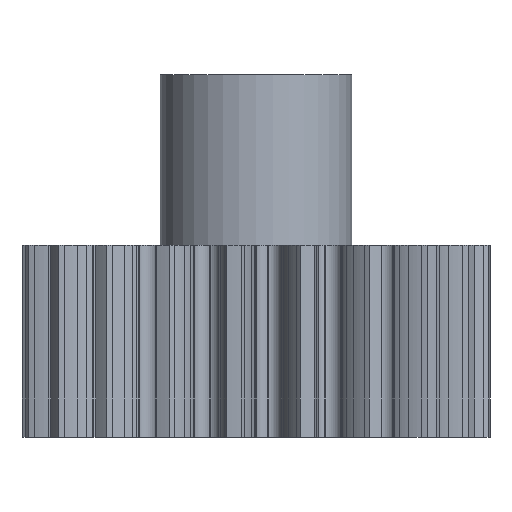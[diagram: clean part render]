
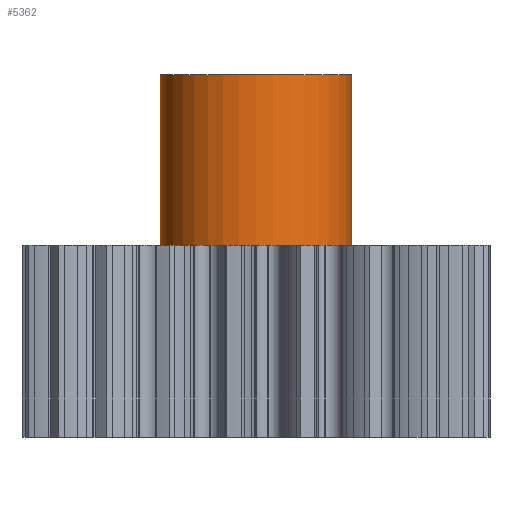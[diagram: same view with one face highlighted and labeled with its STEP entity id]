
A CAD part, front view. The second image highlights one B-rep face of the part: STEP entity #5362.
In plain terms, the highlighted cylindrical face has radius 4.5 mm (diameter 9 mm), a partial arc.
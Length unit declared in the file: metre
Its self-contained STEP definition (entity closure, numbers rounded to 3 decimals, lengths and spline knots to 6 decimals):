
#10 = VECTOR ( 'NONE', #3473, 1. ) ;
#341 = VERTEX_POINT ( 'NONE', #9301 ) ;
#701 = FACE_OUTER_BOUND ( 'NONE', #6685, .T. ) ;
#1105 = DIRECTION ( 'NONE',  ( 0., 0., 1. ) ) ;
#1383 = CYLINDRICAL_SURFACE ( 'NONE', #6929, 0.0045 ) ;
#1539 = LINE ( 'NONE', #5213, #4483 ) ;
#2843 = AXIS2_PLACEMENT_3D ( 'NONE', #8195, #7285, #8373 ) ;
#2958 = EDGE_CURVE ( 'NONE', #11770, #341, #1539, .T. ) ;
#3155 = DIRECTION ( 'NONE',  ( 1., 0., 0. ) ) ;
#3200 = EDGE_CURVE ( 'NONE', #10210, #341, #10222, .T. ) ;
#3444 = CARTESIAN_POINT ( 'NONE',  ( 0.0045, 0., 0.0075 ) ) ;
#3473 = DIRECTION ( 'NONE',  ( 0., 0., -1. ) ) ;
#4483 = VECTOR ( 'NONE', #1105, 1. ) ;
#4674 = ORIENTED_EDGE ( 'NONE', *, *, #7253, .T. ) ;
#4946 = CARTESIAN_POINT ( 'NONE',  ( 0., 0., 0.0085 ) ) ;
#5060 = DIRECTION ( 'NONE',  ( 0., 0., 1. ) ) ;
#5071 = AXIS2_PLACEMENT_3D ( 'NONE', #5862, #10336, #3155 ) ;
#5213 = CARTESIAN_POINT ( 'NONE',  ( 0.0045, 0., 0.0085 ) ) ;
#5279 = DIRECTION ( 'NONE',  ( 1., 0., 0. ) ) ;
#5362 = ADVANCED_FACE ( 'NONE', ( #701 ), #1383, .T. ) ;
#5398 = LINE ( 'NONE', #11677, #10 ) ;
#5862 = CARTESIAN_POINT ( 'NONE',  ( 0., 0., 0.017 ) ) ;
#6002 = VERTEX_POINT ( 'NONE', #10989 ) ;
#6685 = EDGE_LOOP ( 'NONE', ( #11773, #7476, #4674, #9991 ) ) ;
#6929 = AXIS2_PLACEMENT_3D ( 'NONE', #4946, #5060, #5279 ) ;
#7253 = EDGE_CURVE ( 'NONE', #10210, #6002, #5398, .T. ) ;
#7285 = DIRECTION ( 'NONE',  ( 0., 0., -1. ) ) ;
#7333 = CARTESIAN_POINT ( 'NONE',  ( -0.0045, 0., 0.017 ) ) ;
#7476 = ORIENTED_EDGE ( 'NONE', *, *, #3200, .F. ) ;
#8195 = CARTESIAN_POINT ( 'NONE',  ( 0., 0., 0.0075 ) ) ;
#8373 = DIRECTION ( 'NONE',  ( 1., 0., 0. ) ) ;
#8573 = EDGE_CURVE ( 'NONE', #11770, #6002, #11843, .T. ) ;
#9301 = CARTESIAN_POINT ( 'NONE',  ( 0.0045, 0., 0.017 ) ) ;
#9991 = ORIENTED_EDGE ( 'NONE', *, *, #8573, .F. ) ;
#10210 = VERTEX_POINT ( 'NONE', #7333 ) ;
#10222 = CIRCLE ( 'NONE', #5071, 0.0045 ) ;
#10336 = DIRECTION ( 'NONE',  ( 0., 0., 1. ) ) ;
#10989 = CARTESIAN_POINT ( 'NONE',  ( -0.0045, 0., 0.0075 ) ) ;
#11677 = CARTESIAN_POINT ( 'NONE',  ( -0.0045, 0., 0.0085 ) ) ;
#11770 = VERTEX_POINT ( 'NONE', #3444 ) ;
#11773 = ORIENTED_EDGE ( 'NONE', *, *, #2958, .T. ) ;
#11843 = CIRCLE ( 'NONE', #2843, 0.0045 ) ;
